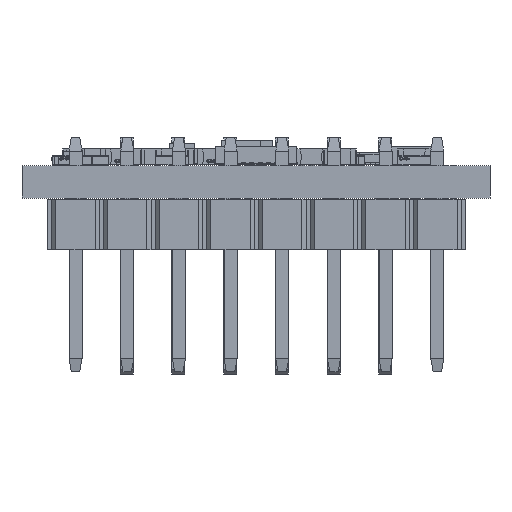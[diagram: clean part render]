
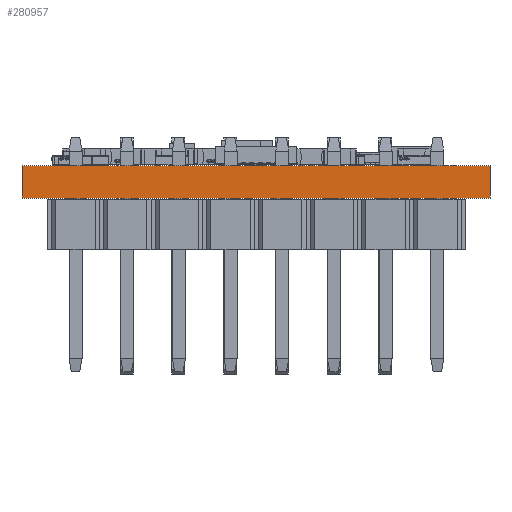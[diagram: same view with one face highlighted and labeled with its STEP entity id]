
A CAD part, front view. The second image highlights one B-rep face of the part: STEP entity #280957.
In plain terms, the highlighted planar face has unit normal (0, -1, 0).
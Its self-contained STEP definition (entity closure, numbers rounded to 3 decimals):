
#280957 = ADVANCED_FACE('',(#280958),#280972,.T.);
#280958 = FACE_BOUND('',#280959,.T.);
#280959 = EDGE_LOOP('',(#280960,#280995,#281023,#281051));
#280960 = ORIENTED_EDGE('',*,*,#280961,.T.);
#280961 = EDGE_CURVE('',#280962,#280964,#280966,.T.);
#280962 = VERTEX_POINT('',#280963);
#280963 = CARTESIAN_POINT('',(81.3,-142.9,0.));
#280964 = VERTEX_POINT('',#280965);
#280965 = CARTESIAN_POINT('',(81.3,-142.9,1.58));
#280966 = SURFACE_CURVE('',#280967,(#280971,#280983),.PCURVE_S1.);
#280967 = LINE('',#280968,#280969);
#280968 = CARTESIAN_POINT('',(81.3,-142.9,0.));
#280969 = VECTOR('',#280970,1.);
#280970 = DIRECTION('',(0.,0.,1.));
#280971 = PCURVE('',#280972,#280977);
#280972 = PLANE('',#280973);
#280973 = AXIS2_PLACEMENT_3D('',#280974,#280975,#280976);
#280974 = CARTESIAN_POINT('',(81.3,-142.9,0.));
#280975 = DIRECTION('',(0.,-1.,0.));
#280976 = DIRECTION('',(-1.,0.,0.));
#280977 = DEFINITIONAL_REPRESENTATION('',(#280978),#280982);
#280978 = LINE('',#280979,#280980);
#280979 = CARTESIAN_POINT('',(0.,-0.));
#280980 = VECTOR('',#280981,1.);
#280981 = DIRECTION('',(0.,-1.));
#280982 = ( GEOMETRIC_REPRESENTATION_CONTEXT(2) 
PARAMETRIC_REPRESENTATION_CONTEXT() REPRESENTATION_CONTEXT('2D SPACE',''
  ) );
#280983 = PCURVE('',#280984,#280989);
#280984 = PLANE('',#280985);
#280985 = AXIS2_PLACEMENT_3D('',#280986,#280987,#280988);
#280986 = CARTESIAN_POINT('',(81.3,-106.9,0.));
#280987 = DIRECTION('',(1.,0.,-0.));
#280988 = DIRECTION('',(0.,-1.,0.));
#280989 = DEFINITIONAL_REPRESENTATION('',(#280990),#280994);
#280990 = LINE('',#280991,#280992);
#280991 = CARTESIAN_POINT('',(36.,0.));
#280992 = VECTOR('',#280993,1.);
#280993 = DIRECTION('',(0.,-1.));
#280994 = ( GEOMETRIC_REPRESENTATION_CONTEXT(2) 
PARAMETRIC_REPRESENTATION_CONTEXT() REPRESENTATION_CONTEXT('2D SPACE',''
  ) );
#280995 = ORIENTED_EDGE('',*,*,#280996,.T.);
#280996 = EDGE_CURVE('',#280964,#280997,#280999,.T.);
#280997 = VERTEX_POINT('',#280998);
#280998 = CARTESIAN_POINT('',(58.3,-142.9,1.58));
#280999 = SURFACE_CURVE('',#281000,(#281004,#281011),.PCURVE_S1.);
#281000 = LINE('',#281001,#281002);
#281001 = CARTESIAN_POINT('',(81.3,-142.9,1.58));
#281002 = VECTOR('',#281003,1.);
#281003 = DIRECTION('',(-1.,0.,0.));
#281004 = PCURVE('',#280972,#281005);
#281005 = DEFINITIONAL_REPRESENTATION('',(#281006),#281010);
#281006 = LINE('',#281007,#281008);
#281007 = CARTESIAN_POINT('',(0.,-1.58));
#281008 = VECTOR('',#281009,1.);
#281009 = DIRECTION('',(1.,0.));
#281010 = ( GEOMETRIC_REPRESENTATION_CONTEXT(2) 
PARAMETRIC_REPRESENTATION_CONTEXT() REPRESENTATION_CONTEXT('2D SPACE',''
  ) );
#281011 = PCURVE('',#281012,#281017);
#281012 = PLANE('',#281013);
#281013 = AXIS2_PLACEMENT_3D('',#281014,#281015,#281016);
#281014 = CARTESIAN_POINT('',(69.8,-124.9,1.58));
#281015 = DIRECTION('',(-0.,-0.,-1.));
#281016 = DIRECTION('',(-1.,0.,0.));
#281017 = DEFINITIONAL_REPRESENTATION('',(#281018),#281022);
#281018 = LINE('',#281019,#281020);
#281019 = CARTESIAN_POINT('',(-11.5,-18.));
#281020 = VECTOR('',#281021,1.);
#281021 = DIRECTION('',(1.,0.));
#281022 = ( GEOMETRIC_REPRESENTATION_CONTEXT(2) 
PARAMETRIC_REPRESENTATION_CONTEXT() REPRESENTATION_CONTEXT('2D SPACE',''
  ) );
#281023 = ORIENTED_EDGE('',*,*,#281024,.F.);
#281024 = EDGE_CURVE('',#281025,#280997,#281027,.T.);
#281025 = VERTEX_POINT('',#281026);
#281026 = CARTESIAN_POINT('',(58.3,-142.9,0.));
#281027 = SURFACE_CURVE('',#281028,(#281032,#281039),.PCURVE_S1.);
#281028 = LINE('',#281029,#281030);
#281029 = CARTESIAN_POINT('',(58.3,-142.9,0.));
#281030 = VECTOR('',#281031,1.);
#281031 = DIRECTION('',(0.,0.,1.));
#281032 = PCURVE('',#280972,#281033);
#281033 = DEFINITIONAL_REPRESENTATION('',(#281034),#281038);
#281034 = LINE('',#281035,#281036);
#281035 = CARTESIAN_POINT('',(23.,0.));
#281036 = VECTOR('',#281037,1.);
#281037 = DIRECTION('',(0.,-1.));
#281038 = ( GEOMETRIC_REPRESENTATION_CONTEXT(2) 
PARAMETRIC_REPRESENTATION_CONTEXT() REPRESENTATION_CONTEXT('2D SPACE',''
  ) );
#281039 = PCURVE('',#281040,#281045);
#281040 = PLANE('',#281041);
#281041 = AXIS2_PLACEMENT_3D('',#281042,#281043,#281044);
#281042 = CARTESIAN_POINT('',(58.3,-142.9,0.));
#281043 = DIRECTION('',(-1.,0.,0.));
#281044 = DIRECTION('',(0.,1.,0.));
#281045 = DEFINITIONAL_REPRESENTATION('',(#281046),#281050);
#281046 = LINE('',#281047,#281048);
#281047 = CARTESIAN_POINT('',(0.,0.));
#281048 = VECTOR('',#281049,1.);
#281049 = DIRECTION('',(0.,-1.));
#281050 = ( GEOMETRIC_REPRESENTATION_CONTEXT(2) 
PARAMETRIC_REPRESENTATION_CONTEXT() REPRESENTATION_CONTEXT('2D SPACE',''
  ) );
#281051 = ORIENTED_EDGE('',*,*,#281052,.F.);
#281052 = EDGE_CURVE('',#280962,#281025,#281053,.T.);
#281053 = SURFACE_CURVE('',#281054,(#281058,#281065),.PCURVE_S1.);
#281054 = LINE('',#281055,#281056);
#281055 = CARTESIAN_POINT('',(81.3,-142.9,0.));
#281056 = VECTOR('',#281057,1.);
#281057 = DIRECTION('',(-1.,0.,0.));
#281058 = PCURVE('',#280972,#281059);
#281059 = DEFINITIONAL_REPRESENTATION('',(#281060),#281064);
#281060 = LINE('',#281061,#281062);
#281061 = CARTESIAN_POINT('',(0.,-0.));
#281062 = VECTOR('',#281063,1.);
#281063 = DIRECTION('',(1.,0.));
#281064 = ( GEOMETRIC_REPRESENTATION_CONTEXT(2) 
PARAMETRIC_REPRESENTATION_CONTEXT() REPRESENTATION_CONTEXT('2D SPACE',''
  ) );
#281065 = PCURVE('',#281066,#281071);
#281066 = PLANE('',#281067);
#281067 = AXIS2_PLACEMENT_3D('',#281068,#281069,#281070);
#281068 = CARTESIAN_POINT('',(69.8,-124.9,0.));
#281069 = DIRECTION('',(-0.,-0.,-1.));
#281070 = DIRECTION('',(-1.,0.,0.));
#281071 = DEFINITIONAL_REPRESENTATION('',(#281072),#281076);
#281072 = LINE('',#281073,#281074);
#281073 = CARTESIAN_POINT('',(-11.5,-18.));
#281074 = VECTOR('',#281075,1.);
#281075 = DIRECTION('',(1.,0.));
#281076 = ( GEOMETRIC_REPRESENTATION_CONTEXT(2) 
PARAMETRIC_REPRESENTATION_CONTEXT() REPRESENTATION_CONTEXT('2D SPACE',''
  ) );
